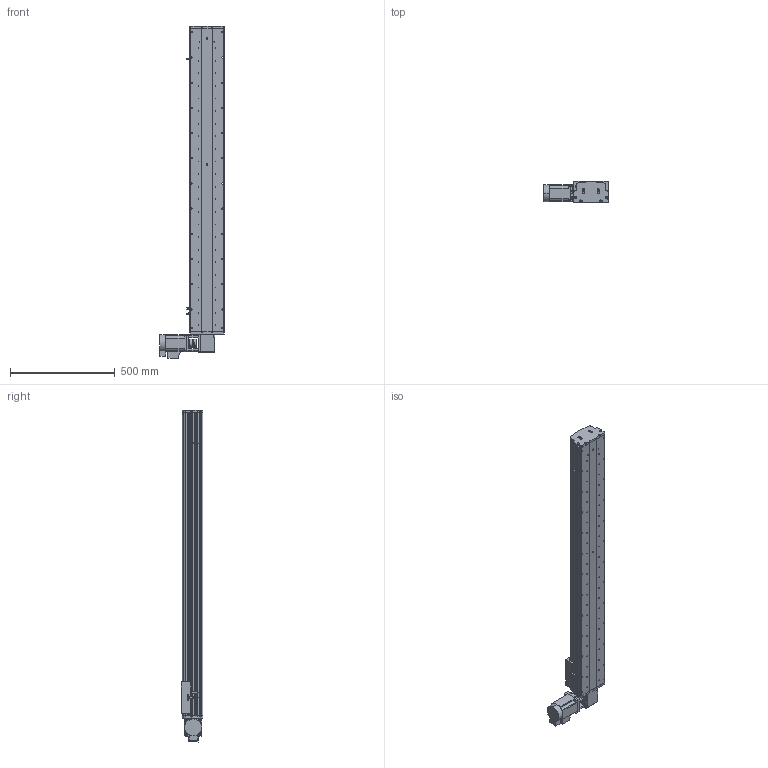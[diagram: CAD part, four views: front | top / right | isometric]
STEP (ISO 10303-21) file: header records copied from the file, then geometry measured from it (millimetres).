
FILE_DESCRIPTION (( 'STEP AP214' ), '1' );
FILE_NAME ('KSD165B-S1200-MRT-CM.STEP', '2017-10-17T01:38:38', ( '微软用户' ), ( '微软中国' ), 'SwSTEP 2.0', 'SolidWorks 2014', '' );
FILE_SCHEMA (( 'AUTOMOTIVE_DESIGN' ));
Length unit declared in the file: millimetre
Products named in the file (16): KSD165模组同步带-防撞垫1; KSD165耀郪-ヶ傷啣1-肮祭湍; KSD165模组-后端板1-同步带; 130宽马达安装板1-带电机座750W（1）; KSD165模组-同步带滑动座-最新版; KSD165B-S1200-MRT-CM; 165宽马达安装板同步带左-改; KSD165模组-同步带防尘盖1-1200行程; KSD165模组同步带底板-1200行程; 拸秶雄ん750W侜督萇儂; 165宽安装板同步带带电机座750W; C39ㄜ1419WP; U倰嫖萇假蚾璃; U倰嫖萇EEㄜSX672; 覜茼え68遵圉猾敕; KSD165模组-同步带-防撞垫2
Assembly tree (19 placements, depth 2):
  KSD165B-S1200-MRT-CM
    KSD165模组-同步带滑动座-最新版
    130宽马达安装板1-带电机座750W（1）
    KSD165模组-后端板1-同步带
    KSD165耀郪-ヶ傷啣1-肮祭湍
    KSD165模组同步带-防撞垫1
    KSD165模组-同步带-防撞垫2
    覜茼え68遵圉猾敕
    U倰嫖萇EEㄜSX672  x3
    U倰嫖萇假蚾璃  x3
    C39ㄜ1419WP
    165宽安装板同步带带电机座750W
    拸秶雄ん750W侜督萇儂
    KSD165模组同步带底板-1200行程
    KSD165模组-同步带防尘盖1-1200行程
    165宽马达安装板同步带左-改
Bounding box: 307.5 x 104 x 1581.06 mm (x, y, z)
Volume: 8785749.3 mm3; surface area: 1995582.1 mm2
Topology: 20 solids, 21 shells, 1550 faces, 4320 edges, 2801 vertices
Faces by surface type: cylinder 869, plane 587, cone 94
Entity records: 49843 total; most frequent: CARTESIAN_POINT 10447, DIRECTION 7726, ORIENTED_EDGE 7292, EDGE_CURVE 3646, AXIS2_PLACEMENT_3D 2952, VERTEX_POINT 2393, VECTOR 1822, LINE 1822
